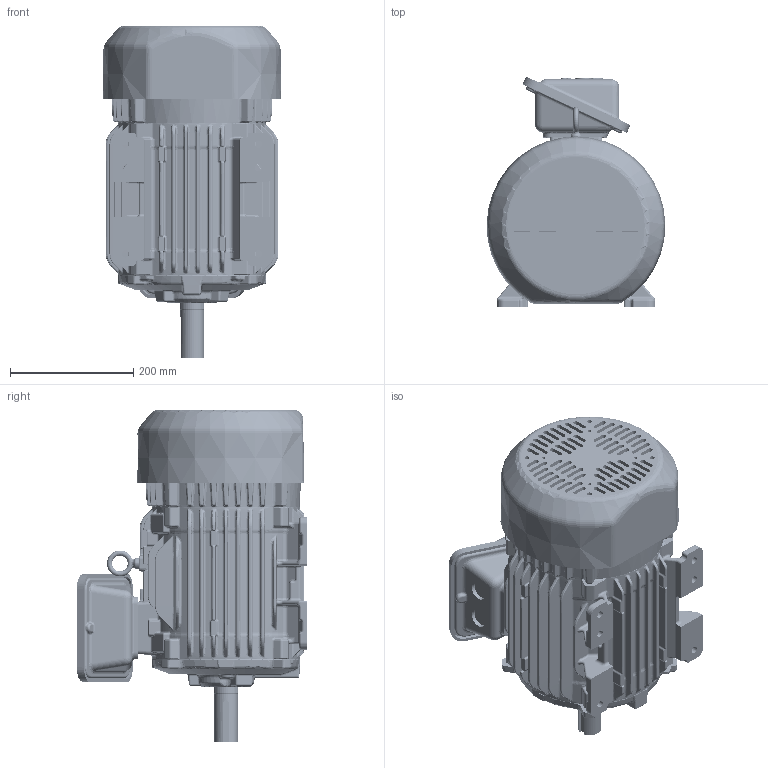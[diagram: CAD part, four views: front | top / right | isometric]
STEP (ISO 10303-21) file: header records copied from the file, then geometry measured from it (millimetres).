
FILE_DESCRIPTION((''),'2;1');
FILE_NAME('210_3D_TOP_MNT_ASM_ASM','2020-09-05T13:52:05',('EMD2341'),('Nidec Motor Corporation'),'CREO PARAMETRIC BY PTC INC, 2019080','CREO PARAMETRIC BY PTC INC, 2019080','');
FILE_SCHEMA(('CONFIG_CONTROL_DESIGN'));
Length unit declared in the file: inch
Products named in the file (11): 132_TOP_MNT; 210_DE_BRKT; 0133167; 210_CAST_GSK_OBB; 132_CAST_IEC; 210_CAST_GSK_OBC; 210_CAST_OBC; 132_ODE_BRKT; 210_STL_FCVR; 132_SHA; 210_3D_TOP_MNT_ASM_ASM
Assembly tree (10 placements, depth 2):
  210_3D_TOP_MNT_ASM_ASM
    132_TOP_MNT
    210_DE_BRKT
    0133167
    210_CAST_GSK_OBB
    132_CAST_IEC
    210_CAST_GSK_OBC
    210_CAST_OBC
    132_ODE_BRKT
    210_STL_FCVR
    132_SHA
Bounding box: 290.28 x 374.37 x 538.96 mm (x, y, z)
Volume: 25682012.2 mm3; surface area: 1320746.1 mm2
Topology: 10 solids, 11 shells, 5419 faces, 12502 edges, 7189 vertices
Faces by surface type: bspline 2276, cylinder 1216, plane 1048, torus 337, extrusion 301, sphere 136, cone 105
Entity records: 250084 total; most frequent: CARTESIAN_POINT 143826, ORIENTED_EDGE 25000, DIRECTION 17702, EDGE_CURVE 12502, VERTEX_POINT 7189, AXIS2_PLACEMENT_3D 6832, EDGE_LOOP 5525, FACE_OUTER_BOUND 5419
